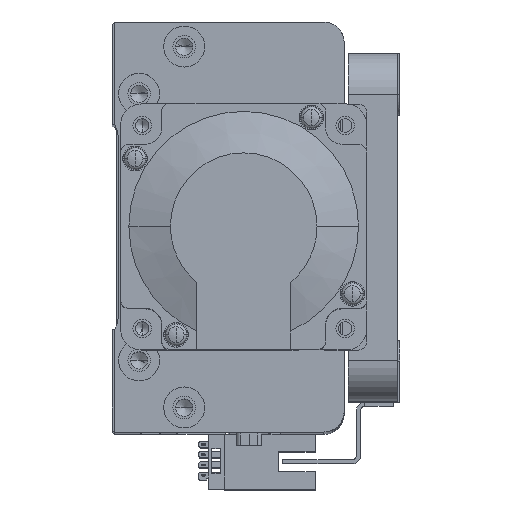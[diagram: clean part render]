
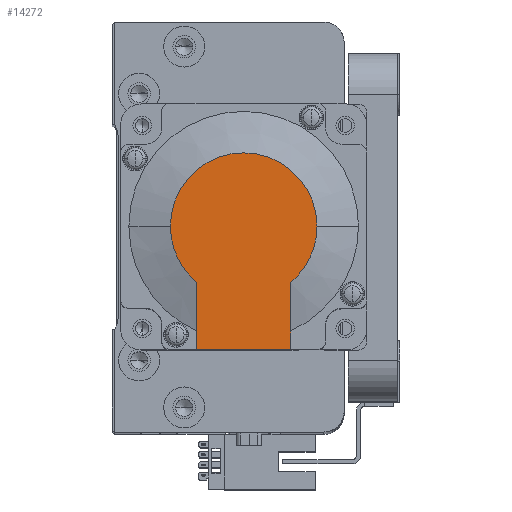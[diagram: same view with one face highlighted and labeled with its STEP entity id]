
A CAD part, top view. The second image highlights one B-rep face of the part: STEP entity #14272.
In plain terms, the highlighted planar face has unit normal (0, 0, 1) as drawn and (-1, 0, 0) by its records, which use the part's own axes.
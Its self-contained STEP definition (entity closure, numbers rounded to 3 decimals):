
#200 = AXIS2_PLACEMENT_3D ( 'NONE', #26266, #8132, #29242 ) ;
#948 = ORIENTED_EDGE ( 'NONE', *, *, #5973, .T. ) ;
#2622 = CARTESIAN_POINT ( 'NONE',  ( -118.5, 0., 0. ) ) ;
#3389 = AXIS2_PLACEMENT_3D ( 'NONE', #2622, #23813, #5634 ) ;
#3627 = CIRCLE ( 'NONE', #20470, 17.881 ) ;
#3956 = EDGE_CURVE ( 'NONE', #28513, #11291, #36047, .T. ) ;
#5634 = DIRECTION ( 'NONE',  ( 0., 0., -1. ) ) ;
#5973 = EDGE_CURVE ( 'NONE', #13945, #28513, #29196, .T. ) ;
#6479 = CARTESIAN_POINT ( 'NONE',  ( -118.5, 0., -17.881 ) ) ;
#7862 = VERTEX_POINT ( 'NONE', #14955 ) ;
#8132 = DIRECTION ( 'NONE',  ( -1., 0., 0. ) ) ;
#8220 = DIRECTION ( 'NONE',  ( 0., -1., 0. ) ) ;
#8623 = CARTESIAN_POINT ( 'NONE',  ( -118.5, -8.941, 0. ) ) ;
#10043 = ORIENTED_EDGE ( 'NONE', *, *, #18103, .T. ) ;
#10336 = VERTEX_POINT ( 'NONE', #34820 ) ;
#11148 = ORIENTED_EDGE ( 'NONE', *, *, #3956, .T. ) ;
#11291 = VERTEX_POINT ( 'NONE', #6479 ) ;
#11635 = DIRECTION ( 'NONE',  ( 0., 0., 1. ) ) ;
#11757 = VERTEX_POINT ( 'NONE', #12510 ) ;
#12510 = CARTESIAN_POINT ( 'NONE',  ( -118.5, 30., 11.45 ) ) ;
#13013 = EDGE_LOOP ( 'NONE', ( #948, #11148, #13690, #10043, #19053, #22825 ) ) ;
#13690 = ORIENTED_EDGE ( 'NONE', *, *, #28936, .T. ) ;
#13945 = VERTEX_POINT ( 'NONE', #18461 ) ;
#14272 = ADVANCED_FACE ( 'NONE', ( #19349 ), #23746, .T. ) ;
#14955 = CARTESIAN_POINT ( 'NONE',  ( -118.5, 13.735, 11.45 ) ) ;
#16460 = LINE ( 'NONE', #34840, #38352 ) ;
#17379 = CARTESIAN_POINT ( 'NONE',  ( -118.5, 0., 0. ) ) ;
#18103 = EDGE_CURVE ( 'NONE', #10336, #7862, #26685, .T. ) ;
#18461 = CARTESIAN_POINT ( 'NONE',  ( -118.5, 30., -11.45 ) ) ;
#18466 = CARTESIAN_POINT ( 'NONE',  ( -118.5, -8.941, -11.45 ) ) ;
#19053 = ORIENTED_EDGE ( 'NONE', *, *, #34843, .F. ) ;
#19349 = FACE_OUTER_BOUND ( 'NONE', #13013, .T. ) ;
#20440 = DIRECTION ( 'NONE',  ( 0., 0., -1. ) ) ;
#20470 = AXIS2_PLACEMENT_3D ( 'NONE', #17379, #38180, #20440 ) ;
#21221 = VECTOR ( 'NONE', #30487, 1000. ) ;
#22825 = ORIENTED_EDGE ( 'NONE', *, *, #32870, .F. ) ;
#22985 = LINE ( 'NONE', #32260, #29940 ) ;
#23746 = PLANE ( 'NONE',  #29340 ) ;
#23813 = DIRECTION ( 'NONE',  ( -1., 0., 0. ) ) ;
#24694 = CARTESIAN_POINT ( 'NONE',  ( -118.5, 13.735, -11.45 ) ) ;
#26266 = CARTESIAN_POINT ( 'NONE',  ( -118.5, 0., 0. ) ) ;
#26685 = CIRCLE ( 'NONE', #3389, 17.881 ) ;
#28513 = VERTEX_POINT ( 'NONE', #24694 ) ;
#28936 = EDGE_CURVE ( 'NONE', #11291, #10336, #3627, .T. ) ;
#29196 = LINE ( 'NONE', #18466, #21221 ) ;
#29242 = DIRECTION ( 'NONE',  ( 0., 0., -1. ) ) ;
#29340 = AXIS2_PLACEMENT_3D ( 'NONE', #8623, #29707, #11635 ) ;
#29707 = DIRECTION ( 'NONE',  ( -1., 0., 0. ) ) ;
#29940 = VECTOR ( 'NONE', #8220, 1000. ) ;
#30487 = DIRECTION ( 'NONE',  ( 0., -1., 0. ) ) ;
#32260 = CARTESIAN_POINT ( 'NONE',  ( -118.5, 0., 11.45 ) ) ;
#32870 = EDGE_CURVE ( 'NONE', #13945, #11757, #16460, .T. ) ;
#34820 = CARTESIAN_POINT ( 'NONE',  ( -118.5, 0., 17.881 ) ) ;
#34840 = CARTESIAN_POINT ( 'NONE',  ( -118.5, 30., 25. ) ) ;
#34843 = EDGE_CURVE ( 'NONE', #11757, #7862, #22985, .T. ) ;
#36047 = CIRCLE ( 'NONE', #200, 17.881 ) ;
#37820 = DIRECTION ( 'NONE',  ( 0., 0., 1. ) ) ;
#38180 = DIRECTION ( 'NONE',  ( -1., 0., 0. ) ) ;
#38352 = VECTOR ( 'NONE', #37820, 1000. ) ;
